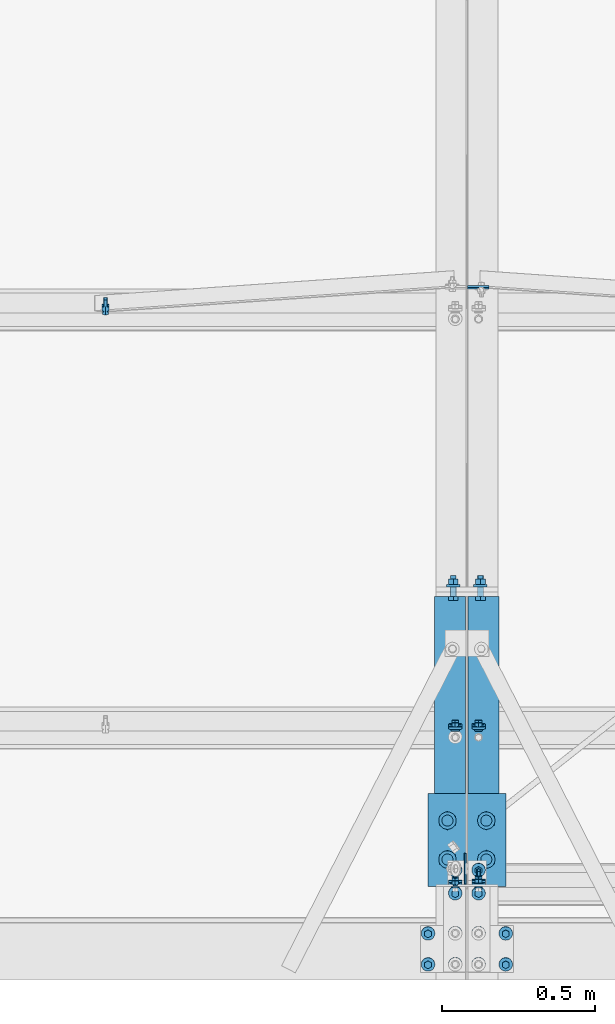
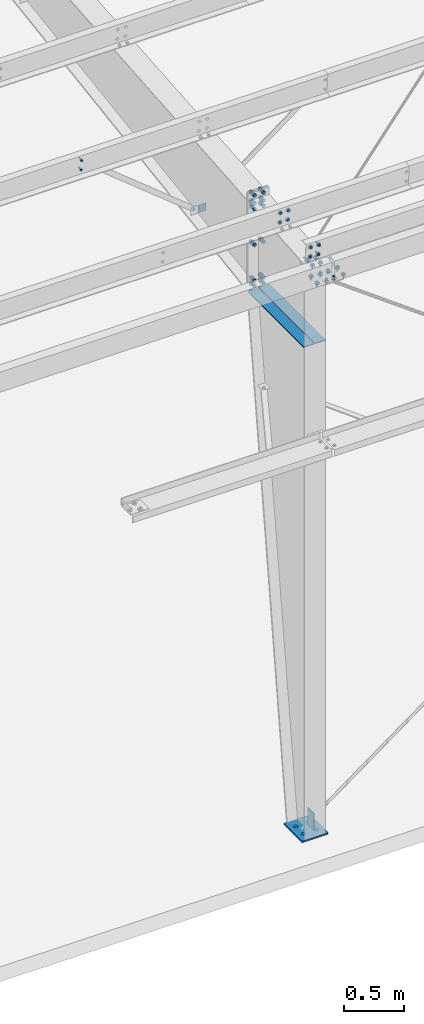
# One storey, part 63 of 185: 17 mechanical fasteners, 5 discrete accessories, 10 elements without a shape of their own.
"""IFC2X3 building model written with IfcOpenShell, lengths in millimetres."""

from ifc_helpers import new_model, si_unit, frame, origin_with_axes, origin_2d_with_axis, place, context, subcontext, project, spatial, polyline, rectangle, circle, outline, extrude, source, transform, mapped, material, type_object, element, aggregate, save


model = new_model("IFC2X3")

# Units and contexts
model_context = context("Model", 3, precision=1e-05, world=origin_with_axes())
body_context = subcontext(model_context, "Body", "Model", "MODEL_VIEW")
ifc_project = project(units=[si_unit("LENGTHUNIT", "METRE", prefix="MILLI"), si_unit("AREAUNIT", "SQUARE_METRE"), si_unit("VOLUMEUNIT", "CUBIC_METRE"), si_unit("MASSUNIT", "GRAM", prefix="KILO"), si_unit("TIMEUNIT", "SECOND"), si_unit("PLANEANGLEUNIT", "RADIAN"), si_unit("SOLIDANGLEUNIT", "STERADIAN"), si_unit("THERMODYNAMICTEMPERATUREUNIT", "DEGREE_CELSIUS"), si_unit("LUMINOUSINTENSITYUNIT", "LUMEN")], contexts=[model_context])

# Site, building, storey
site_placement = place(None, origin_with_axes())
site = spatial("IfcSite", under=ifc_project, at=site_placement, Name="Undefined", CompositionType="ELEMENT")
building_placement = place(site_placement, origin_with_axes())
building = spatial("IfcBuilding", under=site, at=building_placement, Name="Undefined", CompositionType="ELEMENT")
storey_placement = place(building_placement, origin_with_axes())
storey = spatial("IfcBuildingStorey", under=building, at=storey_placement, Name="Undefined", CompositionType="ELEMENT", Elevation=0.0)

# Assembly, discrete accessories
assembly_1_placement = place(storey_placement, origin_with_axes())
assembly_1 = element("IfcElementAssembly", 1, at=assembly_1_placement, inside=storey, Name="Steel Assembly", AssemblyPlace="NOTDEFINED", PredefinedType="RIGID_FRAME")
ifc_material_1 = material(Name="STEEL/55")
discrete_accessory_type_1 = type_object("IfcDiscreteAccessoryType", Name="Stiff")
discrete_accessory_1_placement = place(assembly_1_placement, frame((7293.76875, 312.674, 5067.48165112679), z_axis=(-1.0, 0.0, 0.0), x_axis=(0.0, 1.0, 0.0)))
discrete_accessory_1 = element("IfcDiscreteAccessory", 2, at=discrete_accessory_1_placement, type_object=discrete_accessory_type_1, material=ifc_material_1, Name="Stiff", ObjectType="FL3/8\"X4\"", context=body_context, shape_type="SweptSolid", body=[
    extrude(rectangle(XDim=9.525, YDim=101.6, at=origin_2d_with_axis()), frame((939.799999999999, 0.0, 0.0), z_axis=(-1.0, 0.0, 0.0), x_axis=(0.0, -1.0, 0.0)), (0.0, 0.0, 1.0), 939.8),
])
discrete_accessory_2_placement = place(assembly_1_placement, frame((7184.23125, 312.674, 5067.48165112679), z_axis=(-1.0, 0.0, 0.0), x_axis=(0.0, 1.0, 0.0)))
discrete_accessory_2 = element("IfcDiscreteAccessory", 3, at=discrete_accessory_2_placement, type_object=discrete_accessory_type_1, material=ifc_material_1, Name="Stiff", ObjectType="FL3/8\"X4\"", context=body_context, shape_type="SweptSolid", body=[
    extrude(rectangle(XDim=9.525, YDim=101.6, at=origin_2d_with_axis()), frame((939.799999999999, 0.0, 0.0), z_axis=(-1.0, 0.0, 0.0), x_axis=(0.0, -1.0, 0.0)), (0.0, 0.0, 1.0), 939.8),
])

# Assembly, mechanical fasteners
assembly_2_placement = place(storey_placement, origin_with_axes())
assembly_2 = element("IfcElementAssembly", 4, at=assembly_2_placement, inside=storey, Name="Steel Assembly", AssemblyPlace="NOTDEFINED", PredefinedType="RIGID_FRAME")
ifc_material_2 = material(Name="Undefined")
discrete_accessory_type_2 = type_object("IfcDiscreteAccessoryType", Name="Bolt assembly")
shared_shape_1 = source(origin_with_axes(), body_context, "Body", "SweptSolid", [
    extrude(circle(Radius=7.14374971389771, at=origin_2d_with_axis()), frame((0.0, -1.59000001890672, 0.0), z_axis=(0.0, 1.0, 0.0), x_axis=(1.0, 0.0, 0.0)), (0.0, 0.0, 1.0), 3.3),
    extrude(circle(Radius=13.4937496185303, at=origin_2d_with_axis()), frame((0.0, -5.5587500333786, 0.0), z_axis=(0.0, 1.0, 0.0), x_axis=(1.0, 0.0, 0.0)), (0.0, 0.0, 1.0), 4.0),
    extrude(circle(Radius=22.2250003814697, at=origin_2d_with_axis()), frame((0.0, 1.5900000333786, 0.0), z_axis=(0.0, 1.0, 0.0), x_axis=(1.0, 0.0, 0.0)), (0.0, 0.0, 1.0), 7.9),
    extrude(outline(polyline([(12.8316099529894, 0.0), (6.4158049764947, 11.1125001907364), (-6.4158049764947, 11.1125001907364), (-12.8316099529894, 0.0), (-6.4158049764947, -11.1125001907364), (6.4158049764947, -11.1125001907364), (12.8316099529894, 0.0)])), frame((0.0, 9.5275000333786, 0.0), z_axis=(0.0, 1.0, 0.0), x_axis=(1.0, 0.0, 0.0)), (0.0, 0.0, 1.0), 12.3),
])
mechanical_fastener_1_placement = place(assembly_2_placement, frame((7277.1, 307.870484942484, 6070.6797900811), z_axis=(1.0, 0.0, 0.0), x_axis=(0.0, 0.0830454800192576, -0.996545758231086)))
mechanical_fastener_1 = element("IfcMechanicalFastener", 5, at=mechanical_fastener_1_placement, type_object=discrete_accessory_type_2, material=ifc_material_2, Name="Bolt assembly", NominalDiameter=12.6999998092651, NominalLength=38.0999984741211, context=body_context, shape_type="MappedRepresentation", body=[
    mapped(shared_shape_1, transform((0.0, 0.0, 0.0))),
    mapped(shared_shape_1, transform((101.599998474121, 0.0, 0.0))),
])
mechanical_fastener_2_placement = place(assembly_2_placement, frame((7200.9, 307.870484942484, 6070.6797900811), z_axis=(1.0, 0.0, 0.0), x_axis=(0.0, 0.0830454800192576, -0.996545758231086)))
mechanical_fastener_2 = element("IfcMechanicalFastener", 6, at=mechanical_fastener_2_placement, type_object=discrete_accessory_type_2, material=ifc_material_2, Name="Bolt assembly", NominalDiameter=12.6999998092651, NominalLength=38.0999984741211, context=body_context, shape_type="MappedRepresentation", body=[
    mapped(shared_shape_1, transform((0.0, 0.0, 0.0))),
    mapped(shared_shape_1, transform((101.599998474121, 0.0, 0.0))),
])

# Assembly, mechanical fastener
assembly_3_placement = place(storey_placement, origin_with_axes())
assembly_3 = element("IfcElementAssembly", 7, at=assembly_3_placement, inside=storey, Name="Steel Assembly", AssemblyPlace="NOTDEFINED", PredefinedType="RIGID_FRAME")
mechanical_fastener_3_placement = place(assembly_3_placement, frame((7277.1, 818.861779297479, 6113.26239802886), z_axis=(1.0, 0.0, 0.0), x_axis=(0.0, 0.0830454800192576, -0.996545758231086)))
mechanical_fastener_3 = element("IfcMechanicalFastener", 8, at=mechanical_fastener_3_placement, type_object=discrete_accessory_type_2, material=ifc_material_2, Name="Bolt assembly", NominalDiameter=12.6999998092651, NominalLength=38.0999984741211, context=body_context, shape_type="MappedRepresentation", body=[
    mapped(shared_shape_1, transform((0.0, 0.0, 0.0))),
    mapped(shared_shape_1, transform((101.599998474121, 0.0, 0.0))),
])
aggregate(assembly_3, [mechanical_fastener_3])

assembly_4_placement = place(storey_placement, origin_with_axes())
assembly_4 = element("IfcElementAssembly", 9, at=assembly_4_placement, inside=storey, Name="Steel Assembly", AssemblyPlace="NOTDEFINED", PredefinedType="RIGID_FRAME")
mechanical_fastener_4_placement = place(assembly_4_placement, frame((7200.9, 818.861779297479, 6113.26239802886), z_axis=(1.0, 0.0, 0.0), x_axis=(0.0, 0.0830454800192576, -0.996545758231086)))
mechanical_fastener_4 = element("IfcMechanicalFastener", 10, at=mechanical_fastener_4_placement, type_object=discrete_accessory_type_2, material=ifc_material_2, Name="Bolt assembly", NominalDiameter=12.6999998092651, NominalLength=38.0999984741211, context=body_context, shape_type="MappedRepresentation", body=[
    mapped(shared_shape_1, transform((0.0, 0.0, 0.0))),
    mapped(shared_shape_1, transform((101.599998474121, 0.0, 0.0))),
])
aggregate(assembly_4, [mechanical_fastener_4])

# Discrete accessory
discrete_accessory_type_3 = type_object("IfcDiscreteAccessoryType", Name="Base Plate")
discrete_accessory_3_placement = place(assembly_1_placement, frame((7239.0, 304.8, 7.93749999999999), z_axis=(1.0, 0.0, 0.0), x_axis=(0.0, 1.0, 0.0)))
discrete_accessory_3 = element("IfcDiscreteAccessory", 11, at=discrete_accessory_3_placement, type_object=discrete_accessory_type_3, material=ifc_material_1, Name="Base Plate", ObjectType="FL5/8\"X10\"", context=body_context, shape_type="SweptSolid", body=[
    extrude(rectangle(XDim=15.875, YDim=254.0, at=origin_2d_with_axis()), frame((304.909695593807, 0.0, 0.0), z_axis=(-1.0, 0.0, 0.0), x_axis=(0.0, -1.0, 0.0)), (0.0, 0.0, 1.0), 304.9),
])

# Assembly, discrete accessory
assembly_5_placement = place(storey_placement, origin_with_axes())
assembly_5 = element("IfcElementAssembly", 12, at=assembly_5_placement, inside=storey, Name="Steel Assembly", AssemblyPlace="NOTDEFINED", PredefinedType="RIGID_FRAME")
discrete_accessory_type_4 = type_object("IfcDiscreteAccessoryType", Name="FLANGE BRACE FLIP")
discrete_accessory_4_placement = place(assembly_5_placement, frame((7241.381, 2264.17630960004, 5265.17211501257), z_axis=(0.0, -0.0830454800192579, 0.996545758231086), x_axis=(1.0, 0.0, 0.0)))
discrete_accessory_4 = element("IfcDiscreteAccessory", 13, at=discrete_accessory_4_placement, type_object=discrete_accessory_type_4, material=ifc_material_1, Name="FLANGE BRACE FLIP", ObjectType="PL1/8\"X2 3/4\"", context=body_context, shape_type="SweptSolid", body=[
    extrude(rectangle(XDim=3.416, YDim=85.725, at=origin_2d_with_axis()), frame((69.8499999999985, 0.0, 0.0), z_axis=(-1.0, 0.0, 0.0), x_axis=(0.0, -1.0, 0.0)), (0.0, 0.0, 1.0), 69.9),
])
aggregate(assembly_5, [discrete_accessory_4])

# Discrete accessory
discrete_accessory_type_5 = type_object("IfcDiscreteAccessoryType", Name="BACKUP PL SINGLE SLOT")
discrete_accessory_5_placement = place(assembly_1_placement, frame((7233.44375127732, 363.476847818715, 256.515722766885), z_axis=(-0.000896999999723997, -0.999999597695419, 0.0), x_axis=(0.0, 0.0, -1.0)))
discrete_accessory_5 = element("IfcDiscreteAccessory", 14, at=discrete_accessory_5_placement, type_object=discrete_accessory_type_5, material=ifc_material_1, Name="BACKUP PL SINGLE SLOT", ObjectType="FL1/4\"X4\"", context=body_context, shape_type="SweptSolid", body=[
    extrude(rectangle(XDim=6.35, YDim=101.6, at=origin_2d_with_axis()), frame((177.800000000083, 0.0, 0.0), z_axis=(-1.0, 0.0, 0.0), x_axis=(0.0, -1.0, 0.0)), (0.0, 0.0, 1.0), 177.8),
])

# Assembly, mechanical fasteners
assembly_6_placement = place(storey_placement, origin_with_axes())
assembly_6 = element("IfcElementAssembly", 15, at=assembly_6_placement, inside=storey, Name="Steel Assembly", AssemblyPlace="NOTDEFINED", PredefinedType="RIGID_FRAME")
shared_shape_2 = source(origin_with_axes(), body_context, "Body", "SweptSolid", [
    extrude(circle(Radius=7.14374971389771, at=origin_2d_with_axis()), frame((0.0, 0.0, 0.0), z_axis=(0.0, 1.0, 0.0), x_axis=(1.0, 0.0, 0.0)), (0.0, 0.0, 1.0), 4.9),
    extrude(outline(polyline([(12.8316099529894, 0.0), (6.4158049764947, 11.1125001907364), (-6.4158049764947, 11.1125001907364), (-12.8316099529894, 0.0), (-6.4158049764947, -11.1125001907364), (6.4158049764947, -11.1125001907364), (12.8316099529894, 0.0)])), frame((0.0, 4.76000382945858, 0.0), z_axis=(0.0, 1.0, 0.0), x_axis=(1.0, 0.0, 0.0)), (0.0, 0.0, 1.0), 12.3),
])
mechanical_fastener_5_placement = place(assembly_6_placement, frame((7200.9, 307.870484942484, 6070.6797900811), z_axis=(1.0, 0.0, 0.0), x_axis=(0.0, 0.0830454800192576, -0.996545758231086)))
mechanical_fastener_5 = element("IfcMechanicalFastener", 16, at=mechanical_fastener_5_placement, type_object=discrete_accessory_type_2, material=ifc_material_2, Name="Bolt assembly", NominalDiameter=12.6999998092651, NominalLength=50.7999992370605, context=body_context, shape_type="MappedRepresentation", body=[
    mapped(shared_shape_2, transform((0.0, 0.0, 0.0))),
    mapped(shared_shape_2, transform((101.599998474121, 0.0, 0.0))),
])
shared_shape_3 = source(origin_with_axes(), body_context, "Body", "SweptSolid", [
    extrude(circle(Radius=7.14374971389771, at=origin_2d_with_axis()), frame((0.0, 0.0, 0.0), z_axis=(0.0, 1.0, 0.0), x_axis=(1.0, 0.0, 0.0)), (0.0, 0.0, 1.0), 4.9),
    extrude(outline(polyline([(12.8316099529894, 0.0), (6.4158049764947, 11.1125001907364), (-6.4158049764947, 11.1125001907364), (-12.8316099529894, 0.0), (-6.4158049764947, -11.1125001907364), (6.4158049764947, -11.1125001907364), (12.8316099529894, 0.0)])), frame((0.0, -11.9062498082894, 0.0), z_axis=(0.0, 1.0, 0.0), x_axis=(1.0, 0.0, 0.0)), (0.0, 0.0, 1.0), 7.9),
    extrude(circle(Radius=6.34999990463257, at=origin_2d_with_axis()), frame((0.0, -3.96874999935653, 0.0), z_axis=(0.0, 1.0, 0.0), x_axis=(1.0, 0.0, 0.0)), (0.0, 0.0, 1.0), 50.8),
    extrude(circle(Radius=13.4937496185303, at=origin_2d_with_axis()), frame((0.0, -3.96874999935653, 0.0), z_axis=(0.0, 1.0, 0.0), x_axis=(1.0, 0.0, 0.0)), (0.0, 0.0, 1.0), 4.0),
    extrude(circle(Radius=22.2250003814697, at=origin_2d_with_axis()), frame((0.0, 4.76000382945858, 0.0), z_axis=(0.0, 1.0, 0.0), x_axis=(1.0, 0.0, 0.0)), (0.0, 0.0, 1.0), 7.9),
    extrude(outline(polyline([(12.8316099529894, 0.0), (6.4158049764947, 11.1125001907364), (-6.4158049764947, 11.1125001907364), (-12.8316099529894, 0.0), (-6.4158049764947, -11.1125001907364), (6.4158049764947, -11.1125001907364), (12.8316099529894, 0.0)])), frame((0.0, 12.6975038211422, 0.0), z_axis=(0.0, 1.0, 0.0), x_axis=(1.0, 0.0, 0.0)), (0.0, 0.0, 1.0), 12.3),
])
mechanical_fastener_6_placement = place(assembly_6_placement, frame((7277.1, 307.870484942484, 6070.6797900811), z_axis=(1.0, 0.0, 0.0), x_axis=(0.0, 0.0830454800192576, -0.996545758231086)))
mechanical_fastener_6 = element("IfcMechanicalFastener", 17, at=mechanical_fastener_6_placement, type_object=discrete_accessory_type_2, material=ifc_material_2, Name="Bolt assembly", NominalDiameter=12.6999998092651, NominalLength=50.7999992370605, context=body_context, shape_type="MappedRepresentation", body=[
    mapped(shared_shape_3, transform((0.0, 0.0, 0.0))),
    mapped(shared_shape_3, transform((101.599998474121, 0.0, 0.0))),
])
aggregate(assembly_6, [mechanical_fastener_5, mechanical_fastener_6])

# Assembly, mechanical fastener
assembly_7_placement = place(storey_placement, origin_with_axes())
assembly_7 = element("IfcElementAssembly", 18, at=assembly_7_placement, inside=storey, Name="Steel Assembly", AssemblyPlace="NOTDEFINED", PredefinedType="RIGID_FRAME")
shared_shape_4 = source(origin_with_axes(), body_context, "Body", "SweptSolid", [
    extrude(circle(Radius=7.14374971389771, at=origin_2d_with_axis()), frame((0.0, -1.4900000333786, 0.0), z_axis=(0.0, 1.0, 0.0), x_axis=(1.0, 0.0, 0.0)), (0.0, 0.0, 1.0), 3.2),
    extrude(circle(Radius=7.14374971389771, at=origin_2d_with_axis()), frame((0.0, -1.4900000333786, 0.0), z_axis=(0.0, 1.0, 0.0), x_axis=(1.0, 0.0, 0.0)), (0.0, 0.0, 1.0), 3.2),
    extrude(outline(polyline([(10.9985221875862, 0.0), (5.4992610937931, 9.52499961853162), (-5.4992610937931, 9.52499961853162), (-10.9985221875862, 0.0), (-5.4992610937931, -9.52499961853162), (5.4992610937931, -9.52499961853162), (10.9985221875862, 0.0)])), frame((0.0, -11.1149996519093, 0.0), z_axis=(0.0, 1.0, 0.0), x_axis=(1.0, 0.0, 0.0)), (0.0, 0.0, 1.0), 9.5),
    extrude(circle(Radius=6.34999990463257, at=origin_2d_with_axis()), frame((0.0, -1.59000001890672, 0.0), z_axis=(0.0, 1.0, 0.0), x_axis=(1.0, 0.0, 0.0)), (0.0, 0.0, 1.0), 38.1),
    extrude(outline(polyline([(12.8316099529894, 0.0), (6.4158049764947, 11.1125001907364), (-6.4158049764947, 11.1125001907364), (-12.8316099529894, 0.0), (-6.4158049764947, -11.1125001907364), (6.4158049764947, -11.1125001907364), (12.8316099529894, 0.0)])), frame((0.0, 1.5900000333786, 0.0), z_axis=(0.0, 1.0, 0.0), x_axis=(1.0, 0.0, 0.0)), (0.0, 0.0, 1.0), 12.3),
])
mechanical_fastener_7_placement = place(assembly_7_placement, frame((6057.9, 2185.7239412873, 6227.16757842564), z_axis=(1.0, 0.0, 0.0), x_axis=(0.0, 0.0830454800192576, -0.996545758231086)))
mechanical_fastener_7 = element("IfcMechanicalFastener", 19, at=mechanical_fastener_7_placement, type_object=discrete_accessory_type_2, material=ifc_material_2, Name="Bolt assembly", NominalDiameter=12.6999998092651, NominalLength=38.0999984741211, context=body_context, shape_type="MappedRepresentation", body=[
    mapped(shared_shape_4, transform((0.0, 0.0, 0.0))),
    mapped(shared_shape_4, transform((101.599998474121, 0.0, 0.0))),
])
aggregate(assembly_7, [mechanical_fastener_7])

# Mechanical fastener
shared_shape_5 = source(origin_with_axes(), body_context, "Body", "SweptSolid", [
    extrude(circle(Radius=10.3187494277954, at=origin_2d_with_axis()), frame((0.0, -0.1, 0.0), z_axis=(0.0, 1.0, 0.0), x_axis=(1.0, 0.0, 0.0)), (0.0, 0.0, 1.0), 15.8),
    extrude(circle(Radius=10.3187494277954, at=origin_2d_with_axis()), frame((0.0, -15.775, 0.0), z_axis=(0.0, 1.0, 0.0), x_axis=(1.0, 0.0, 0.0)), (0.0, 0.0, 1.0), 15.9),
    extrude(outline(polyline([(18.3308710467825, 0.0), (9.16543552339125, 15.8750000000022), (-9.16543552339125, 15.8750000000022), (-18.3308710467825, 0.0), (-9.16543552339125, -15.8750000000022), (9.16543552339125, -15.8750000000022), (18.3308710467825, 0.0)])), frame((0.0, -27.78125, 0.0), z_axis=(0.0, 1.0, 0.0), x_axis=(1.0, 0.0, 0.0)), (0.0, 0.0, 1.0), 11.9),
    extrude(circle(Radius=9.52499961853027, at=origin_2d_with_axis()), frame((0.0, -15.8750000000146, 0.0), z_axis=(0.0, 1.0, 0.0), x_axis=(1.0, 0.0, 0.0)), (0.0, 0.0, 1.0), 69.8),
    extrude(circle(Radius=22.2250003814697, at=origin_2d_with_axis()), frame((0.0, 15.7480000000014, 0.0), z_axis=(0.0, 1.0, 0.0), x_axis=(1.0, 0.0, 0.0)), (0.0, 0.0, 1.0), 7.9),
    extrude(outline(polyline([(18.3308710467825, 0.0), (9.16543552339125, 15.8750000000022), (-9.16543552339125, 15.8750000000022), (-18.3308710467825, 0.0), (-9.16543552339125, -15.8750000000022), (9.16543552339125, -15.8750000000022), (18.3308710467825, 0.0)])), frame((0.0, 23.6855000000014, 0.0), z_axis=(0.0, 1.0, 0.0), x_axis=(1.0, 0.0, 0.0)), (0.0, 0.0, 1.0), 19.0),
])
mechanical_fastener_8_placement = place(assembly_1_placement, frame((7239.0, 1268.349, 5531.15865002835), z_axis=(1.0, 0.0, 0.0), x_axis=(0.0, 0.0, -1.0)))
mechanical_fastener_8 = element("IfcMechanicalFastener", 20, at=mechanical_fastener_8_placement, type_object=discrete_accessory_type_2, material=ifc_material_2, Name="Bolt assembly", NominalDiameter=19.0499992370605, NominalLength=69.8499984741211, context=body_context, shape_type="MappedRepresentation", body=[
    mapped(shared_shape_5, transform((0.0, 0.0, -44.4500007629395))),
    mapped(shared_shape_5, transform((0.0, 0.0, 44.4500007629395))),
])

mechanical_fastener_9_placement = place(assembly_1_placement, frame((7239.0, 1268.349, 5024.74615112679), z_axis=(-1.0, 0.0, 0.0), x_axis=(0.0, 0.0, 1.0)))
mechanical_fastener_9 = element("IfcMechanicalFastener", 21, at=mechanical_fastener_9_placement, type_object=discrete_accessory_type_2, material=ifc_material_2, Name="Bolt assembly", NominalDiameter=19.0499992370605, NominalLength=69.8499984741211, context=body_context, shape_type="MappedRepresentation", body=[
    mapped(shared_shape_5, transform((0.0, 0.0, -44.4500007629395))),
    mapped(shared_shape_5, transform((82.5500030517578, 0.0, -44.4500007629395))),
    mapped(shared_shape_5, transform((139.699996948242, 0.0, -44.4500007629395))),
    mapped(shared_shape_5, transform((0.0, 0.0, 44.4500007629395))),
    mapped(shared_shape_5, transform((82.5500030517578, 0.0, 44.4500007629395))),
    mapped(shared_shape_5, transform((139.699996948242, 0.0, 44.4500007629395))),
])

mechanical_fastener_10_placement = place(assembly_1_placement, frame((7239.0, 1268.349, 6037.57115112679), z_axis=(1.0, 0.0, 0.0), x_axis=(0.0, 0.0, -1.0)))
mechanical_fastener_10 = element("IfcMechanicalFastener", 22, at=mechanical_fastener_10_placement, type_object=discrete_accessory_type_2, material=ifc_material_2, Name="Bolt assembly", NominalDiameter=19.0499992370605, NominalLength=69.8499984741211, context=body_context, shape_type="MappedRepresentation", body=[
    mapped(shared_shape_5, transform((0.0, 0.0, -44.4500007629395))),
    mapped(shared_shape_5, transform((82.5500030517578, 0.0, -44.4500007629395))),
    mapped(shared_shape_5, transform((139.699996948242, 0.0, -44.4500007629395))),
    mapped(shared_shape_5, transform((0.0, 0.0, 44.4500007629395))),
    mapped(shared_shape_5, transform((82.5500030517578, 0.0, 44.4500007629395))),
    mapped(shared_shape_5, transform((139.699996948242, 0.0, 44.4500007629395))),
])

shared_shape_6 = source(origin_with_axes(), body_context, "Body", "SweptSolid", [
    extrude(circle(Radius=7.14374971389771, at=origin_2d_with_axis()), frame((0.0, -0.1, 0.0), z_axis=(0.0, 1.0, 0.0), x_axis=(1.0, 0.0, 0.0)), (0.0, 0.0, 1.0), 8.1),
    extrude(circle(Radius=7.14374971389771, at=origin_2d_with_axis()), frame((0.0, -3.08000006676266, 0.0), z_axis=(0.0, 1.0, 0.0), x_axis=(1.0, 0.0, 0.0)), (0.0, 0.0, 1.0), 3.2),
    extrude(outline(polyline([(12.8316099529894, 0.0), (6.4158049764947, 11.1125001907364), (-6.4158049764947, 11.1125001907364), (-12.8316099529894, 0.0), (-6.4158049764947, -11.1125001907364), (6.4158049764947, -11.1125001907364), (12.8316099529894, 0.0)])), frame((0.0, -11.1175003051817, 0.0), z_axis=(0.0, 1.0, 0.0), x_axis=(1.0, 0.0, 0.0)), (0.0, 0.0, 1.0), 7.9),
    extrude(circle(Radius=6.34999990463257, at=origin_2d_with_axis()), frame((0.0, -3.18000030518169, 0.0), z_axis=(0.0, 1.0, 0.0), x_axis=(1.0, 0.0, 0.0)), (0.0, 0.0, 1.0), 50.8),
    extrude(circle(Radius=22.2250003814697, at=origin_2d_with_axis()), frame((0.0, 7.95019856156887, 0.0), z_axis=(0.0, 1.0, 0.0), x_axis=(1.0, 0.0, 0.0)), (0.0, 0.0, 1.0), 7.9),
    extrude(outline(polyline([(12.8316099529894, 0.0), (6.4158049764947, 11.1125001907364), (-6.4158049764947, 11.1125001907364), (-12.8316099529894, 0.0), (-6.4158049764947, -11.1125001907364), (6.4158049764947, -11.1125001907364), (12.8316099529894, 0.0)])), frame((0.0, 15.8876985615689, 0.0), z_axis=(0.0, 1.0, 0.0), x_axis=(1.0, 0.0, 0.0)), (0.0, 0.0, 1.0), 12.3),
])
mechanical_fastener_11_placement = place(assembly_2_placement, frame((7239.0, 282.558222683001, 5915.64218374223), z_axis=(1.0, 0.0, 0.0), x_axis=(0.0, -0.996545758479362, -0.0830454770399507)))
mechanical_fastener_11 = element("IfcMechanicalFastener", 23, at=mechanical_fastener_11_placement, type_object=discrete_accessory_type_2, material=ifc_material_2, Name="Bolt assembly", NominalDiameter=12.6999998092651, NominalLength=50.7999992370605, context=body_context, shape_type="MappedRepresentation", body=[
    mapped(shared_shape_6, transform((0.0, 0.0, -38.0999984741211))),
    mapped(shared_shape_6, transform((0.0, 0.0, 38.0999984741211))),
])

aggregate(assembly_2, [mechanical_fastener_1, mechanical_fastener_2, mechanical_fastener_11])

shared_shape_7 = source(origin_with_axes(), body_context, "Body", "SweptSolid", [
    extrude(circle(Radius=7.14374971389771, at=origin_2d_with_axis()), frame((0.0, -4.65999985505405, 0.0), z_axis=(0.0, 1.0, 0.0), x_axis=(1.0, 0.0, 0.0)), (0.0, 0.0, 1.0), 4.8),
    extrude(circle(Radius=7.14374971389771, at=origin_2d_with_axis()), frame((0.0, -0.1, 0.0), z_axis=(0.0, 1.0, 0.0), x_axis=(1.0, 0.0, 0.0)), (0.0, 0.0, 1.0), 8.1),
    extrude(outline(polyline([(12.8316099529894, 0.0), (6.4158049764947, 11.1125001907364), (-6.4158049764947, 11.1125001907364), (-12.8316099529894, 0.0), (-6.4158049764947, -11.1125001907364), (6.4158049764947, -11.1125001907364), (12.8316099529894, 0.0)])), frame((0.0, -12.697499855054, 0.0), z_axis=(0.0, 1.0, 0.0), x_axis=(1.0, 0.0, 0.0)), (0.0, 0.0, 1.0), 7.9),
    extrude(circle(Radius=6.34999990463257, at=origin_2d_with_axis()), frame((0.0, -4.75999985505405, 0.0), z_axis=(0.0, 1.0, 0.0), x_axis=(1.0, 0.0, 0.0)), (0.0, 0.0, 1.0), 50.8),
    extrude(circle(Radius=22.2250003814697, at=origin_2d_with_axis()), frame((0.0, 7.95019856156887, 0.0), z_axis=(0.0, 1.0, 0.0), x_axis=(1.0, 0.0, 0.0)), (0.0, 0.0, 1.0), 7.9),
    extrude(outline(polyline([(12.8316099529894, 0.0), (6.4158049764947, 11.1125001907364), (-6.4158049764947, 11.1125001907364), (-12.8316099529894, 0.0), (-6.4158049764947, -11.1125001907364), (6.4158049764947, -11.1125001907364), (12.8316099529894, 0.0)])), frame((0.0, 15.8876985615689, 0.0), z_axis=(0.0, 1.0, 0.0), x_axis=(1.0, 0.0, 0.0)), (0.0, 0.0, 1.0), 12.3),
])
mechanical_fastener_12_placement = place(assembly_1_placement, frame((7239.0, 358.495009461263, 5921.97024930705), z_axis=(-1.0, 0.0, 0.0), x_axis=(0.0, 0.996545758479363, 0.0830454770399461)))
mechanical_fastener_12 = element("IfcMechanicalFastener", 24, at=mechanical_fastener_12_placement, type_object=discrete_accessory_type_2, material=ifc_material_2, Name="Bolt assembly", NominalDiameter=12.6999998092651, NominalLength=50.7999992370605, context=body_context, shape_type="MappedRepresentation", body=[
    mapped(shared_shape_7, transform((0.0, 0.0, -38.0999984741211))),
    mapped(shared_shape_7, transform((0.0, 0.0, 38.0999984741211))),
])

# Assembly, mechanical fasteners
assembly_8_placement = place(storey_placement, origin_with_axes())
assembly_8 = element("IfcElementAssembly", 25, at=assembly_8_placement, inside=storey, Name="Steel Assembly", AssemblyPlace="NOTDEFINED", PredefinedType="RIGID_FRAME")
shared_shape_8 = source(origin_with_axes(), body_context, "Body", "SweptSolid", [
    extrude(circle(Radius=7.14499998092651, at=origin_2d_with_axis()), frame((0.0, -7.8375000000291, 0.0), z_axis=(0.0, 1.0, 0.0), x_axis=(1.0, 0.0, 0.0)), (0.0, 0.0, 1.0), 6.4),
    extrude(circle(Radius=7.14499998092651, at=origin_2d_with_axis()), frame((0.0, -1.58749999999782, 0.0), z_axis=(0.0, 1.0, 0.0), x_axis=(1.0, 0.0, 0.0)), (0.0, 0.0, 1.0), 1.6),
    extrude(circle(Radius=7.14499998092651, at=origin_2d_with_axis()), frame((0.0, -0.1, 0.0), z_axis=(0.0, 1.0, 0.0), x_axis=(1.0, 0.0, 0.0)), (0.0, 0.0, 1.0), 8.1),
    extrude(outline(polyline([(12.8316099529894, 0.0), (6.4158049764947, 11.1125001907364), (-6.4158049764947, 11.1125001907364), (-12.8316099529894, 0.0), (-6.4158049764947, -11.1125001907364), (6.4158049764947, -11.1125001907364), (12.8316099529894, 0.0)])), frame((0.0, -15.8750000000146, 0.0), z_axis=(0.0, 1.0, 0.0), x_axis=(1.0, 0.0, 0.0)), (0.0, 0.0, 1.0), 7.9),
    extrude(circle(Radius=6.34999990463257, at=origin_2d_with_axis()), frame((0.0, -7.93749389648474, 0.0), z_axis=(0.0, 1.0, 0.0), x_axis=(1.0, 0.0, 0.0)), (0.0, 0.0, 1.0), 50.8),
    extrude(circle(Radius=22.2250003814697, at=origin_2d_with_axis()), frame((0.0, 7.95019856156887, 0.0), z_axis=(0.0, 1.0, 0.0), x_axis=(1.0, 0.0, 0.0)), (0.0, 0.0, 1.0), 7.9),
    extrude(outline(polyline([(12.8316099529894, 0.0), (6.4158049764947, 11.1125001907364), (-6.4158049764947, 11.1125001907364), (-12.8316099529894, 0.0), (-6.4158049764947, -11.1125001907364), (6.4158049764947, -11.1125001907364), (12.8316099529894, 0.0)])), frame((0.0, 15.8876985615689, 0.0), z_axis=(0.0, 1.0, 0.0), x_axis=(1.0, 0.0, 0.0)), (0.0, 0.0, 1.0), 12.3),
])
mechanical_fastener_13_placement = place(assembly_8_placement, frame((7200.89999999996, 50.6245237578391, 5896.31437545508), z_axis=(-1.0, 0.0, 0.0), x_axis=(0.0, 0.996545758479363, 0.0830454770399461)))
mechanical_fastener_13 = element("IfcMechanicalFastener", 26, at=mechanical_fastener_13_placement, type_object=discrete_accessory_type_2, material=ifc_material_2, Name="Bolt assembly", NominalDiameter=12.6999998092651, NominalLength=50.7999992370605, context=body_context, shape_type="MappedRepresentation", body=[
    mapped(shared_shape_8, transform((0.0, 0.0, 0.0))),
    mapped(shared_shape_8, transform((101.599998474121, 0.0, 0.0))),
])
shared_shape_9 = source(origin_with_axes(), body_context, "Body", "SweptSolid", [
    extrude(circle(Radius=7.14499998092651, at=origin_2d_with_axis()), frame((0.0, -7.8375000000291, 0.0), z_axis=(0.0, 1.0, 0.0), x_axis=(1.0, 0.0, 0.0)), (0.0, 0.0, 1.0), 6.4),
    extrude(circle(Radius=7.14499998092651, at=origin_2d_with_axis()), frame((0.0, -1.68750355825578, 0.0), z_axis=(0.0, 1.0, 0.0), x_axis=(1.0, 0.0, 0.0)), (0.0, 0.0, 1.0), 1.7),
    extrude(outline(polyline([(12.8316099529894, 0.0), (6.4158049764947, 11.1125001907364), (-6.4158049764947, 11.1125001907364), (-12.8316099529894, 0.0), (-6.4158049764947, -11.1125001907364), (6.4158049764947, -11.1125001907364), (12.8316099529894, 0.0)])), frame((0.0, -15.8750000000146, 0.0), z_axis=(0.0, 1.0, 0.0), x_axis=(1.0, 0.0, 0.0)), (0.0, 0.0, 1.0), 7.9),
    extrude(circle(Radius=6.34999990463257, at=origin_2d_with_axis()), frame((0.0, -7.93749389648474, 0.0), z_axis=(0.0, 1.0, 0.0), x_axis=(1.0, 0.0, 0.0)), (0.0, 0.0, 1.0), 50.8),
    extrude(circle(Radius=22.2250003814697, at=origin_2d_with_axis()), frame((0.0, 0.0, 0.0), z_axis=(0.0, 1.0, 0.0), x_axis=(1.0, 0.0, 0.0)), (0.0, 0.0, 1.0), 7.9),
    extrude(outline(polyline([(12.8316099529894, 0.0), (6.4158049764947, 11.1125001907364), (-6.4158049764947, 11.1125001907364), (-12.8316099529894, 0.0), (-6.4158049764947, -11.1125001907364), (6.4158049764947, -11.1125001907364), (12.8316099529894, 0.0)])), frame((0.0, 7.93750000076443, 0.0), z_axis=(0.0, 1.0, 0.0), x_axis=(1.0, 0.0, 0.0)), (0.0, 0.0, 1.0), 12.3),
])
mechanical_fastener_14_placement = place(assembly_8_placement, frame((7111.99999999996, 50.6245237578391, 5896.31437545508), z_axis=(-1.0, 0.0, 0.0), x_axis=(0.0, 0.996545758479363, 0.0830454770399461)))
mechanical_fastener_14 = element("IfcMechanicalFastener", 27, at=mechanical_fastener_14_placement, type_object=discrete_accessory_type_2, material=ifc_material_2, Name="Bolt assembly", NominalDiameter=12.6999998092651, NominalLength=50.7999992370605, context=body_context, shape_type="MappedRepresentation", body=[
    mapped(shared_shape_9, transform((0.0, 0.0, 0.0))),
    mapped(shared_shape_9, transform((101.599998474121, 0.0, 0.0))),
])
aggregate(assembly_8, [mechanical_fastener_13, mechanical_fastener_14])

# Assembly, mechanical fastener
assembly_9_placement = place(storey_placement, origin_with_axes())
assembly_9 = element("IfcElementAssembly", 28, at=assembly_9_placement, inside=storey, Name="Steel Assembly", AssemblyPlace="NOTDEFINED", PredefinedType="RIGID_FRAME")
shared_shape_10 = source(origin_with_axes(), body_context, "Body", "SweptSolid", [
    extrude(circle(Radius=7.14374971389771, at=origin_2d_with_axis()), frame((0.0, -7.8375000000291, 0.0), z_axis=(0.0, 1.0, 0.0), x_axis=(1.0, 0.0, 0.0)), (0.0, 0.0, 1.0), 6.4),
    extrude(circle(Radius=7.14374971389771, at=origin_2d_with_axis()), frame((0.0, -1.68750355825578, 0.0), z_axis=(0.0, 1.0, 0.0), x_axis=(1.0, 0.0, 0.0)), (0.0, 0.0, 1.0), 1.7),
    extrude(outline(polyline([(12.8316099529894, 0.0), (6.4158049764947, 11.1125001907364), (-6.4158049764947, 11.1125001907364), (-12.8316099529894, 0.0), (-6.4158049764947, -11.1125001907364), (6.4158049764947, -11.1125001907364), (12.8316099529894, 0.0)])), frame((0.0, -15.8750000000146, 0.0), z_axis=(0.0, 1.0, 0.0), x_axis=(1.0, 0.0, 0.0)), (0.0, 0.0, 1.0), 7.9),
    extrude(circle(Radius=6.34999990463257, at=origin_2d_with_axis()), frame((0.0, -7.93749389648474, 0.0), z_axis=(0.0, 1.0, 0.0), x_axis=(1.0, 0.0, 0.0)), (0.0, 0.0, 1.0), 50.8),
    extrude(circle(Radius=22.2250003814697, at=origin_2d_with_axis()), frame((0.0, 0.0, 0.0), z_axis=(0.0, 1.0, 0.0), x_axis=(1.0, 0.0, 0.0)), (0.0, 0.0, 1.0), 7.9),
    extrude(outline(polyline([(12.8316099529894, 0.0), (6.4158049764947, 11.1125001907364), (-6.4158049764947, 11.1125001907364), (-12.8316099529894, 0.0), (-6.4158049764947, -11.1125001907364), (6.4158049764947, -11.1125001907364), (12.8316099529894, 0.0)])), frame((0.0, 7.93750000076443, 0.0), z_axis=(0.0, 1.0, 0.0), x_axis=(1.0, 0.0, 0.0)), (0.0, 0.0, 1.0), 12.3),
])
mechanical_fastener_15_placement = place(assembly_9_placement, frame((7365.99999999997, 50.6245237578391, 5896.31437545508), z_axis=(-1.0, 0.0, 0.0), x_axis=(0.0, 0.996545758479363, 0.0830454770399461)))
mechanical_fastener_15 = element("IfcMechanicalFastener", 29, at=mechanical_fastener_15_placement, type_object=discrete_accessory_type_2, material=ifc_material_2, Name="Bolt assembly", NominalDiameter=12.6999998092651, NominalLength=50.7999992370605, context=body_context, shape_type="MappedRepresentation", body=[
    mapped(shared_shape_10, transform((0.0, 0.0, 0.0))),
    mapped(shared_shape_10, transform((101.599998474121, 0.0, 0.0))),
])
aggregate(assembly_9, [mechanical_fastener_15])

assembly_10_placement = place(storey_placement, origin_with_axes())
assembly_10 = element("IfcElementAssembly", 30, at=assembly_10_placement, inside=storey, Name="Steel Assembly", AssemblyPlace="NOTDEFINED", PredefinedType="RIGID_FRAME")
shared_shape_11 = source(origin_with_axes(), body_context, "Body", "SweptSolid", [
    extrude(circle(Radius=7.14499998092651, at=origin_2d_with_axis()), frame((0.0, -1.58749999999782, 0.0), z_axis=(0.0, 1.0, 0.0), x_axis=(1.0, 0.0, 0.0)), (0.0, 0.0, 1.0), 1.6),
    extrude(circle(Radius=7.14499998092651, at=origin_2d_with_axis()), frame((0.0, -7.8375000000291, 0.0), z_axis=(0.0, 1.0, 0.0), x_axis=(1.0, 0.0, 0.0)), (0.0, 0.0, 1.0), 6.4),
    extrude(circle(Radius=7.14499998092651, at=origin_2d_with_axis()), frame((0.0, -0.1, 0.0), z_axis=(0.0, 1.0, 0.0), x_axis=(1.0, 0.0, 0.0)), (0.0, 0.0, 1.0), 8.1),
    extrude(outline(polyline([(12.8316099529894, 0.0), (6.4158049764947, 11.1125001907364), (-6.4158049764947, 11.1125001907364), (-12.8316099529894, 0.0), (-6.4158049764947, -11.1125001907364), (6.4158049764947, -11.1125001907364), (12.8316099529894, 0.0)])), frame((0.0, -15.8750000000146, 0.0), z_axis=(0.0, 1.0, 0.0), x_axis=(1.0, 0.0, 0.0)), (0.0, 0.0, 1.0), 7.9),
    extrude(circle(Radius=6.34999990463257, at=origin_2d_with_axis()), frame((0.0, -7.93749389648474, 0.0), z_axis=(0.0, 1.0, 0.0), x_axis=(1.0, 0.0, 0.0)), (0.0, 0.0, 1.0), 50.8),
    extrude(circle(Radius=22.2250003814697, at=origin_2d_with_axis()), frame((0.0, 7.95019856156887, 0.0), z_axis=(0.0, 1.0, 0.0), x_axis=(1.0, 0.0, 0.0)), (0.0, 0.0, 1.0), 7.9),
    extrude(outline(polyline([(12.8316099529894, 0.0), (6.4158049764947, 11.1125001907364), (-6.4158049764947, 11.1125001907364), (-12.8316099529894, 0.0), (-6.4158049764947, -11.1125001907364), (6.4158049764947, -11.1125001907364), (12.8316099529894, 0.0)])), frame((0.0, 15.8876985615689, 0.0), z_axis=(0.0, 1.0, 0.0), x_axis=(1.0, 0.0, 0.0)), (0.0, 0.0, 1.0), 12.3),
])
mechanical_fastener_16_placement = place(assembly_10_placement, frame((7277.09999999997, 50.6245237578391, 5896.31437545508), z_axis=(-1.0, 0.0, 0.0), x_axis=(0.0, 0.996545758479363, 0.0830454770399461)))
mechanical_fastener_16 = element("IfcMechanicalFastener", 31, at=mechanical_fastener_16_placement, type_object=discrete_accessory_type_2, material=ifc_material_2, Name="Bolt assembly", NominalDiameter=12.6999998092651, NominalLength=50.7999992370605, context=body_context, shape_type="MappedRepresentation", body=[
    mapped(shared_shape_11, transform((0.0, 0.0, 0.0))),
    mapped(shared_shape_11, transform((101.599998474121, 0.0, 0.0))),
])
aggregate(assembly_10, [mechanical_fastener_16])

# Mechanical fastener
ifc_material_3 = material(Name="7990")
shared_shape_12 = source(origin_with_axes(), body_context, "Body", "SweptSolid", [
    extrude(circle(Radius=18.2562503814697, at=origin_2d_with_axis()), frame((0.0, -15.8750000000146, 0.0), z_axis=(0.0, 1.0, 0.0), x_axis=(1.0, 0.0, 0.0)), (0.0, 0.0, 1.0), 16.0),
    extrude(circle(Radius=28.575, at=origin_2d_with_axis()), frame((0.0, 0.0, 0.0), z_axis=(0.0, 1.0, 0.0), x_axis=(1.0, 0.0, 0.0)), (0.0, 0.0, 1.0), 10.5),
    extrude(outline(polyline([(30.4292459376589, 0.0), (15.2146229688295, 26.3525000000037), (-15.2146229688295, 26.3525000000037), (-30.4292459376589, 0.0), (-15.2146229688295, -26.3525000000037), (15.2146229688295, -26.3525000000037), (30.4292459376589, 0.0)])), frame((0.0, 10.4775, 0.0), z_axis=(0.0, 1.0, 0.0), x_axis=(1.0, 0.0, 0.0)), (0.0, 0.0, 1.0), 21.0),
])
mechanical_fastener_17_placement = place(assembly_1_placement, frame((7239.0, 393.700001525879, -1.06581410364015e-14), z_axis=(-1.0, 0.0, 0.0), x_axis=(0.0, 1.0, 0.0)))
mechanical_fastener_17 = element("IfcMechanicalFastener", 32, at=mechanical_fastener_17_placement, type_object=discrete_accessory_type_2, material=ifc_material_3, Name="Bolt assembly", NominalDiameter=31.75, NominalLength=15.875, context=body_context, shape_type="MappedRepresentation", body=[
    mapped(shared_shape_12, transform((0.0, 0.0, -63.5))),
    mapped(shared_shape_12, transform((127.0, 0.0, -63.5))),
    mapped(shared_shape_12, transform((0.0, 0.0, 63.5))),
    mapped(shared_shape_12, transform((127.0, 0.0, 63.5))),
])

aggregate(assembly_1, [mechanical_fastener_8, discrete_accessory_5, mechanical_fastener_12, mechanical_fastener_9, mechanical_fastener_10, mechanical_fastener_17, discrete_accessory_1, discrete_accessory_2, discrete_accessory_3])

save(model, "model.ifc")
